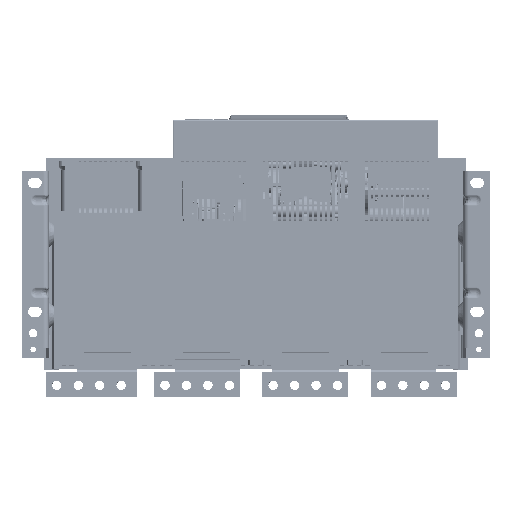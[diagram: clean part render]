
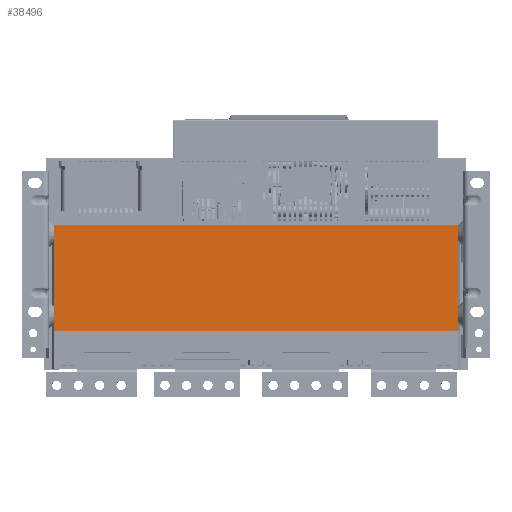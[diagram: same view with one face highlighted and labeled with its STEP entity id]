
A CAD part, top view. The second image highlights one B-rep face of the part: STEP entity #38496.
In plain terms, the highlighted planar face has unit normal (0, 0, 1).
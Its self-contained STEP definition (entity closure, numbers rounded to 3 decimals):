
#617=DIRECTION('',(1.,0.,0.));
#618=VECTOR('',#617,471.);
#619=CARTESIAN_POINT('',(-293.,123.,150.));
#620=LINE('',#619,#618);
#4493=DIRECTION('',(1.,0.,0.));
#4494=VECTOR('',#4493,471.);
#4495=CARTESIAN_POINT('',(-293.,0.,150.));
#4496=LINE('',#4495,#4494);
#15349=DIRECTION('',(0.,1.,0.));
#15350=VECTOR('',#15349,123.);
#15351=CARTESIAN_POINT('',(178.,0.,150.));
#15352=LINE('',#15351,#15350);
#15526=DIRECTION('',(0.,1.,0.));
#15527=VECTOR('',#15526,123.);
#15528=CARTESIAN_POINT('',(-293.,0.,150.));
#15529=LINE('',#15528,#15527);
#23014=CARTESIAN_POINT('',(-293.,0.,150.));
#23015=VERTEX_POINT('',#23014);
#23016=CARTESIAN_POINT('',(178.,0.,150.));
#23017=VERTEX_POINT('',#23016);
#23022=CARTESIAN_POINT('',(-293.,123.,150.));
#23023=CARTESIAN_POINT('',(178.,123.,150.));
#23024=VERTEX_POINT('',#23022);
#23025=VERTEX_POINT('',#23023);
#38485=CARTESIAN_POINT('',(-293.,0.,150.));
#38486=DIRECTION('',(0.,0.,1.));
#38487=DIRECTION('',(1.,0.,0.));
#38488=AXIS2_PLACEMENT_3D('',#38485,#38486,#38487);
#38489=PLANE('',#38488);
#38490=ORIENTED_EDGE('',*,*,#29519,.F.);
#38491=ORIENTED_EDGE('',*,*,#38009,.T.);
#38492=ORIENTED_EDGE('',*,*,#27487,.T.);
#38493=ORIENTED_EDGE('',*,*,#38282,.F.);
#38494=EDGE_LOOP('',(#38490,#38491,#38492,#38493));
#38495=FACE_OUTER_BOUND('',#38494,.F.);
#38496=ADVANCED_FACE('',(#38495),#38489,.T.);
#27487=EDGE_CURVE('',#23024,#23025,#620,.T.);
#29519=EDGE_CURVE('',#23015,#23017,#4496,.T.);
#38009=EDGE_CURVE('',#23015,#23024,#15529,.T.);
#38282=EDGE_CURVE('',#23017,#23025,#15352,.T.);
